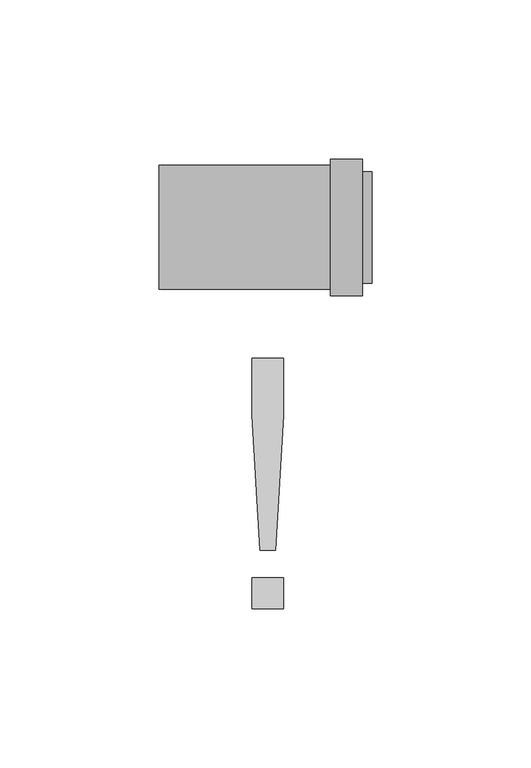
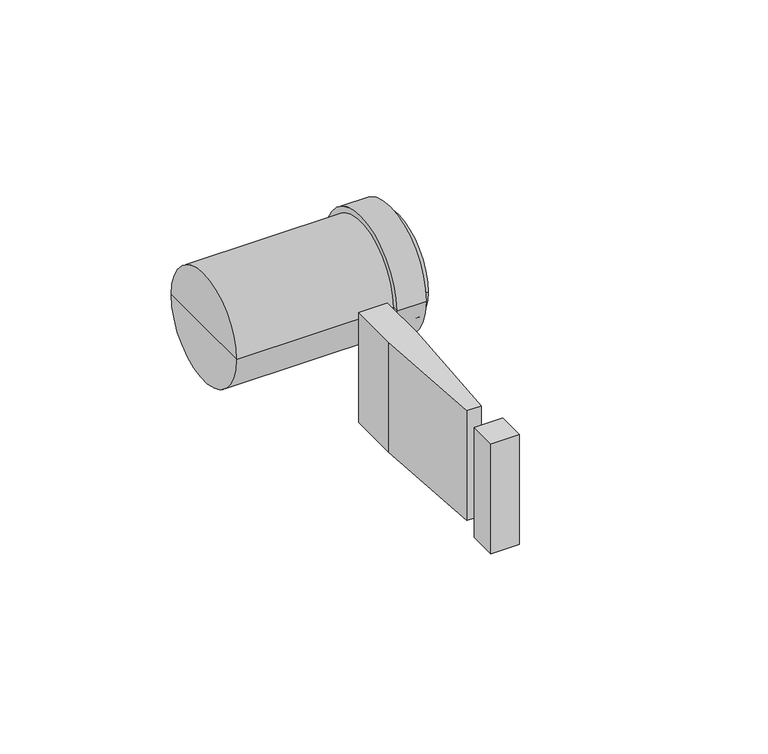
"""IFC4 building model written with IfcOpenShell, lengths in millimetres: pipe fitting geometry, NLRS_52_PIF_UN_Geberit Silent-PP verloop centrisch, kort_PRO_101513 : DN30-50 / d32-50 - OD."""

from ifc_helpers import new_model, si_unit, frame, origin, place, context, project, spatial, polyline, circle_curve, outline, extrude, source, transform, mapped, element, save
from ifc_brep_helpers import plane_surface, cylinder_surface, revolved_surface, advanced_brep


def pipe_fitting_e203270a(model_context):
    return source(origin(), model_context, "Body", "SolidModel", [
        extrude(outline(polyline([(-4.1182323, -120.0), (-4.1182323, -110.1538462), (5.7279215, -110.1538462), (5.7279215, -120.0), (-4.1182323, -120.0)])), frame((0.0, 0.0, -20.0), z_axis=(0.0, 0.0, 1.0), x_axis=(1.0, 0.0, 0.0)), (0.0, 0.0, 1.0), 40.0),
        extrude(outline(polyline([(-1.6566939, -101.5384615), (-4.1182323, -59.0192308), (-4.1182323, -41.2307692), (5.7279215, -41.2307692), (5.7279215, -59.0192308), (3.2663831, -101.5384615), (-1.6566939, -101.5384615)])), frame((0.0, 0.0, -20.0), z_axis=(0.0, 0.0, 1.0), x_axis=(1.0, 0.0, 0.0)), (0.0, 0.0, 1.0), 40.0),
        advanced_brep(
        [(20.5, -21.5, 0.0), (20.5, 21.5, 0.0), (30.5, 21.5, 0.0), (30.5, -21.5, 0.0), (20.5, -19.5, 0.0), (20.5, 19.5, 0.0), (33.5, -15.5, 0.0), (33.5, 15.5, 0.0), (20.5, 15.5, 0.0), (20.5, -15.5, 0.0), (33.5, -17.5, 0.0), (33.5, 17.5, 0.0), (30.5, -17.5, 0.0), (30.5, 17.5, 0.0), (-33.5, -19.5, 0.0), (-33.5, 19.5, 0.0), (-33.5, 0.0, 0.0), (20.5, 0.0, 0.0)],
        [
            (0, 1, circle_curve(frame((20.5, 0.0, 0.0), z_axis=(1.0, 0.0, 0.0), x_axis=(0.0, 1.0, 0.0)), 21.5)),
            (1, 2),
            (2, 3, circle_curve(frame((30.5, 0.0, 0.0), z_axis=(-1.0, 0.0, 0.0), x_axis=(0.0, 1.0, 0.0)), 21.5)),
            (3, 0),
            (1, 0, circle_curve(frame((20.5, 0.0, 0.0), z_axis=(1.0, 0.0, 0.0), x_axis=(0.0, 1.0, 0.0)), 21.5)),
            (3, 2, circle_curve(frame((30.5, 0.0, 0.0), z_axis=(-1.0, 0.0, 0.0), x_axis=(0.0, 1.0, 0.0)), 21.5)),
            (0, 4),
            (4, 5, circle_curve(frame((20.5, 0.0, 0.0), z_axis=(1.0, 0.0, 0.0), x_axis=(0.0, 1.0, 0.0)), 19.5)),
            (5, 1),
            (5, 4, circle_curve(frame((20.5, 0.0, 0.0), z_axis=(1.0, 0.0, 0.0), x_axis=(0.0, 1.0, 0.0)), 19.5)),
            (6, 7, circle_curve(frame((33.5, 0.0, 0.0), z_axis=(1.0, 0.0, 0.0), x_axis=(0.0, 1.0, 0.0)), 15.5)),
            (7, 8),
            (8, 9, circle_curve(frame((20.5, 0.0, 0.0), z_axis=(-1.0, 0.0, 0.0), x_axis=(0.0, 1.0, 0.0)), 15.5)),
            (9, 6),
            (7, 6, circle_curve(frame((33.5, 0.0, 0.0), z_axis=(1.0, 0.0, 0.0), x_axis=(0.0, 1.0, 0.0)), 15.5)),
            (9, 8, circle_curve(frame((20.5, 0.0, 0.0), z_axis=(-1.0, 0.0, 0.0), x_axis=(0.0, 1.0, 0.0)), 15.5)),
            (6, 10),
            (10, 11, circle_curve(frame((33.5, 0.0, 0.0), z_axis=(1.0, 0.0, 0.0), x_axis=(0.0, 1.0, 0.0)), 17.5)),
            (11, 7),
            (11, 10, circle_curve(frame((33.5, 0.0, 0.0), z_axis=(1.0, 0.0, 0.0), x_axis=(0.0, 1.0, 0.0)), 17.5)),
            (12, 3),
            (2, 13),
            (13, 12, circle_curve(frame((30.5, 0.0, 0.0), z_axis=(-1.0, 0.0, 0.0), x_axis=(0.0, 1.0, 0.0)), 17.5)),
            (12, 13, circle_curve(frame((30.5, 0.0, 0.0), z_axis=(-1.0, 0.0, 0.0), x_axis=(0.0, 1.0, 0.0)), 17.5)),
            (13, 11),
            (10, 12),
            (14, 15, circle_curve(frame((-33.5, 0.0, 0.0), z_axis=(1.0, 0.0, 0.0), x_axis=(0.0, 1.0, 0.0)), 19.5)),
            (15, 5),
            (4, 14),
            (15, 14, circle_curve(frame((-33.5, 0.0, 0.0), z_axis=(1.0, 0.0, 0.0), x_axis=(0.0, 1.0, 0.0)), 19.5)),
            (14, 16),
            (16, 15),
            (17, 9),
            (8, 17),
        ],
        [
            cylinder_surface(frame((24.6550734, 0.0, 0.0), z_axis=(-1.0, 0.0, 0.0), x_axis=(0.0, 1.0, 0.0)), 21.5),
            plane_surface(frame((20.5, 0.0, 0.0), z_axis=(-1.0, 0.0, 0.0), x_axis=(0.0, 1.0, 0.0))),
            revolved_surface(polyline([(20.5, 15.5, 0.0), (33.5, 15.5, 0.0)]), (24.6550734, 0.0, 0.0), (-1.0, 0.0, 0.0)),
            plane_surface(frame((33.5, 0.0, 0.0), z_axis=(1.0, 0.0, 0.0), x_axis=(0.0, 1.0, 0.0))),
            plane_surface(frame((30.5, 0.0, 0.0), z_axis=(1.0, 0.0, 0.0), x_axis=(0.0, 1.0, 0.0))),
            cylinder_surface(frame((41.31647, 0.0, 0.0), z_axis=(-1.0, 0.0, 0.0), x_axis=(0.0, 1.0, 0.0)), 17.5),
            cylinder_surface(frame((19.296505, 0.0, 0.0), z_axis=(-1.0, 0.0, 0.0), x_axis=(0.0, 1.0, 0.0)), 19.5),
            plane_surface(frame((-33.5, 0.0, 0.0), z_axis=(-1.0, 0.0, 0.0), x_axis=(0.0, 1.0, 0.0))),
            plane_surface(frame((20.5, 0.0, 0.0), z_axis=(1.0, 0.0, 0.0), x_axis=(0.0, 1.0, 0.0))),
        ],
        [
            (0, [[1, 2, 3, 4]]),
            (0, [[5, -4, 6, -2]]),
            (1, [[-1, 7, 8, 9]]),
            (1, [[-5, -9, 10, -7]]),
            (2, [[11, 12, 13, 14]]),
            (2, [[-12, 15, -14, 16]]),
            (3, [[-11, 17, 18, 19]]),
            (3, [[-15, -19, 20, -17]]),
            (4, [[21, -3, 22, 23]]),
            (4, [[-21, 24, -22, -6]]),
            (5, [[-23, 25, -18, 26]]),
            (5, [[-24, -26, -20, -25]]),
            (6, [[27, 28, -8, 29]]),
            (6, [[-28, 30, -29, -10]]),
            (7, [[-27, 31, 32]]),
            (7, [[-30, -32, -31]]),
            (8, [[33, -13, 34]]),
            (8, [[-33, -34, -16]]),
        ],
    ),
    ])


if __name__ == "__main__":
    model = new_model("IFC4")
    model_context = context("Model", 3, world=origin())
    ifc_project = project(units=[si_unit("LENGTHUNIT", "METRE", prefix="MILLI")], contexts=[model_context])
    site = spatial("IfcSite", under=ifc_project)
    building = spatial("IfcBuilding", under=site)
    placement = place(None, origin())
    pipe_fitting_shape = pipe_fitting_e203270a(model_context)
    element("IfcPipeFitting", 1, ObjectType="NLRS_52_PIF_UN_Geberit Silent-PP verloop centrisch, kort_PRO_101513 : DN30-50 / d32-50 - OD", at=placement, inside=building, context=model_context, shape_type="MappedRepresentation", body=[
        mapped(pipe_fitting_shape, transform((0.0, 0.0, 0.0), x_axis=(1.0, 0.0, 0.0), y_axis=(0.0, 1.0, 0.0), z_axis=(0.0, 0.0, 1.0))),
    ])
    save(model, "model.ifc")
